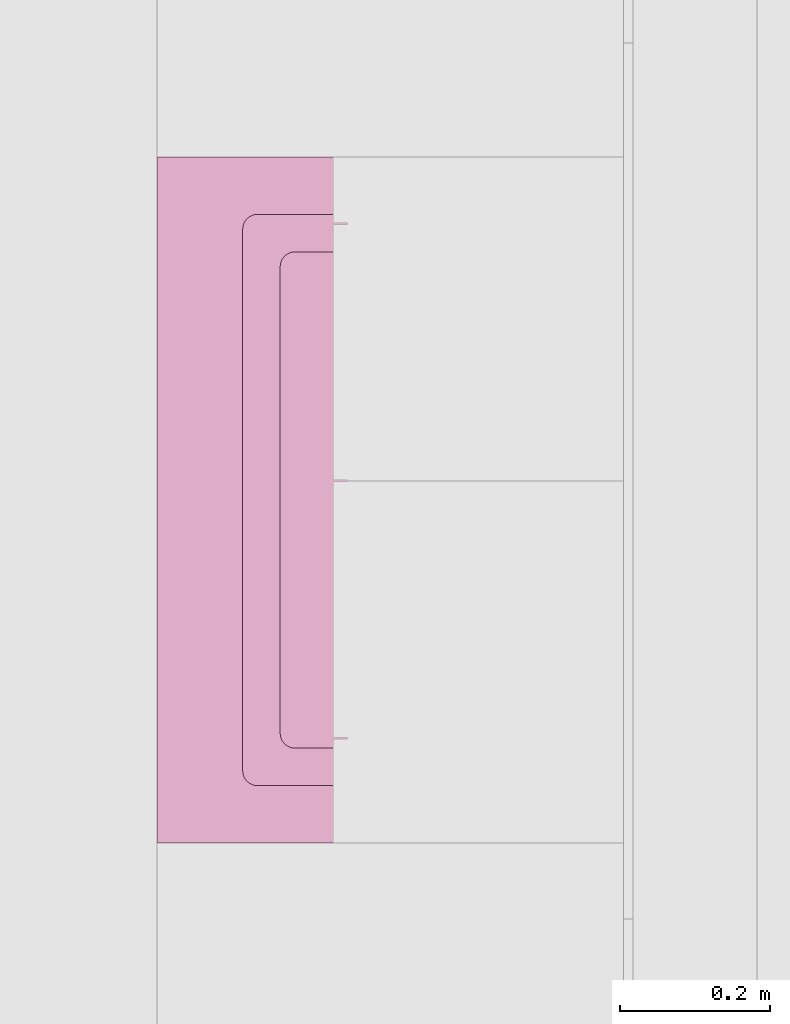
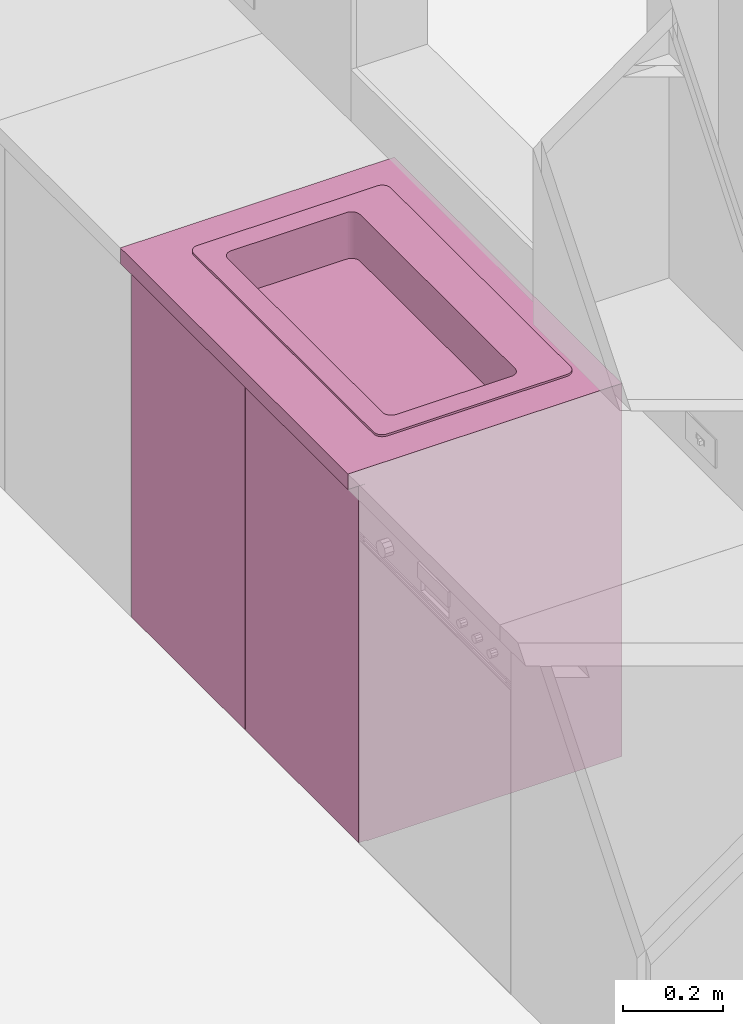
# One storey, part 47 of 103: 1 furnishing.
"""IFC2X3 building model written with IfcOpenShell, lengths in inches."""

from ifc_helpers import new_model, entity, si_unit, converted_unit, derived_unit, money_unit, direction, frame, origin_with_axes, place, context, subcontext, project, spatial, open_shell, faceted_brep, surface_model, type_object, element, save


model = new_model("IFC2X3")

# Units and contexts
model_context = context("Model", 3, precision=0.00039370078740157, world=origin_with_axes(), true_north=direction((0.0, 1.0)))
plan_context = context("Plan", 3, precision=0.00039370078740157, world=origin_with_axes(), true_north=direction((0.0, 1.0)))
body_context = subcontext(model_context, "Body", "Model", "MODEL_VIEW")
ifc_project = project(units=[converted_unit("LENGTHUNIT", "INCH", entity("IfcPositiveLengthMeasure", 0.0254), si_unit("LENGTHUNIT", "METRE"), dimensions=[1, 0, 0, 0, 0, 0, 0]), converted_unit("AREAUNIT", "SQUARE_FOOT", entity("IfcPositiveLengthMeasure", 0.09290304), si_unit("AREAUNIT", "SQUARE_METRE"), dimensions=[2, 0, 0, 0, 0, 0, 0]), si_unit("PLANEANGLEUNIT", "RADIAN"), si_unit("SOLIDANGLEUNIT", "STERADIAN"), money_unit("USD"), converted_unit("TIMEUNIT", "Year", entity("IfcTimeMeasure", 31557600.0), si_unit("TIMEUNIT", "SECOND"), dimensions=[0, 0, 1, 0, 0, 0, 0]), si_unit("MASSUNIT", "GRAM", prefix="KILO"), si_unit("THERMODYNAMICTEMPERATUREUNIT", "DEGREE_CELSIUS"), si_unit("LUMINOUSINTENSITYUNIT", "LUMEN"), si_unit("ENERGYUNIT", "JOULE", prefix="MEGA"), derived_unit("SPECIFICHEATCAPACITYUNIT", [(si_unit("ENERGYUNIT", "JOULE"), 1), (si_unit("MASSUNIT", "GRAM", prefix="KILO"), -1), (si_unit("THERMODYNAMICTEMPERATUREUNIT", "KELVIN"), -1)])], contexts=[model_context, plan_context])

# Site, building, storey
site_placement = place(None, origin_with_axes())
site = spatial("IfcSite", under=ifc_project, at=site_placement, Name="Site", CompositionType="ELEMENT")
building_placement = place(site_placement, origin_with_axes())
building = spatial("IfcBuilding", under=site, at=building_placement, Name="Building", CompositionType="ELEMENT")
storey_placement = place(building_placement, frame((0.0, 0.0, 127.9999999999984), z_axis=(0.0, 0.0, 1.0), x_axis=(1.0, 0.0, 0.0)))
storey = spatial("IfcBuildingStorey", under=building, at=storey_placement, Name="Second Floor", CompositionType="ELEMENT", Elevation=128.0)

# Furnishing
furniture_type = type_object("IfcFurnitureType", Name="Base Cabinet Block", AssemblyPlace="NOTDEFINED")
furnishing_placement = place(storey_placement, frame((154.9997122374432, 277.0007128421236, 0.0), z_axis=(0.0, 0.0, 1.0), x_axis=(2.019381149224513e-06, -0.9999999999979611, 0.0)))
element("IfcFurnishingElement", 1, at=furnishing_placement, inside=storey, type_object=furniture_type, Name="OBJ-16", context=body_context, shape_type="SurfaceModel", body=[
    faceted_brep([(0.0, 0.0, 34.49999999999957), (35.99999999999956, 0.0, 34.49999999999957), (35.99999999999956, -24.99999999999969, 34.49999999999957), (0.0, -24.99999999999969, 34.49999999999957), (32.20063602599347, -19.05602218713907, 34.49999999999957), (32.21259842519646, -18.91929133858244, 34.49999999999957), (32.21259842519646, -4.068897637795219, 34.49999999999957), (32.20063602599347, -3.932166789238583, 34.49999999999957), (32.16511229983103, -3.799590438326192, 34.49999999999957), (32.10710661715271, -3.675196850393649, 34.49999999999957), (32.0283814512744, -3.562765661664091, 34.49999999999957), (31.93132882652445, -3.46571303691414, 34.49999999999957), (31.81889763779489, -3.386987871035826, 34.49999999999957), (31.69450404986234, -3.328982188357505, 34.49999999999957), (31.56192769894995, -3.293458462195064, 34.49999999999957), (31.42519685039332, -3.281496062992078, 34.49999999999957), (4.574803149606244, -3.281496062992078, 34.49999999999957), (4.438072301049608, -3.293458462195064, 34.49999999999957), (4.305495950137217, -3.328982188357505, 34.49999999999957), (4.181102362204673, -3.386987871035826, 34.49999999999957), (4.068671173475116, -3.46571303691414, 34.49999999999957), (3.971618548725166, -3.562765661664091, 34.49999999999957), (3.892893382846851, -3.675196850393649, 34.49999999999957), (3.83488770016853, -3.799590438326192, 34.49999999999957), (3.799363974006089, -3.932166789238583, 34.49999999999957), (3.787401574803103, -4.068897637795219, 34.49999999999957), (3.787401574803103, -18.91929133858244, 34.49999999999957), (3.799363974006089, -19.05602218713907, 34.49999999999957), (3.83488770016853, -19.18859853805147, 34.49999999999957), (3.892893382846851, -19.31299212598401, 34.49999999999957), (3.971618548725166, -19.42542331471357, 34.49999999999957), (4.068671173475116, -19.52247593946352, 34.49999999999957), (4.181102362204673, -19.60120110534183, 34.49999999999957), (4.305495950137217, -19.65920678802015, 34.49999999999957), (4.438072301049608, -19.69473051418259, 34.49999999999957), (4.574803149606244, -19.70669291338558, 34.49999999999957), (31.42519685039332, -19.70669291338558, 34.49999999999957), (31.56192769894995, -19.69473051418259, 34.49999999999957), (31.69450404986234, -19.65920678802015, 34.49999999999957), (31.81889763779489, -19.60120110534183, 34.49999999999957), (31.93132882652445, -19.52247593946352, 34.49999999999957), (32.0283814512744, -19.42542331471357, 34.49999999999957), (32.10710661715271, -19.31299212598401, 34.49999999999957), (32.16511229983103, -19.18859853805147, 34.49999999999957), (0.0, 0.0, 35.99999999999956), (35.99999999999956, 0.0, 35.99999999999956), (35.99999999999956, -24.99999999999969, 35.99999999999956), (0.0, -24.99999999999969, 35.99999999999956), (32.20063602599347, -19.05602218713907, 35.99999999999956), (32.21259842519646, -18.91929133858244, 35.99999999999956), (32.21259842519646, -4.068897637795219, 35.99999999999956), (32.20063602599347, -3.932166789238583, 35.99999999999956), (32.16511229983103, -3.799590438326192, 35.99999999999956), (32.10710661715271, -3.675196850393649, 35.99999999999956), (32.0283814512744, -3.562765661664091, 35.99999999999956), (31.93132882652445, -3.46571303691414, 35.99999999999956), (31.81889763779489, -3.386987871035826, 35.99999999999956), (31.69450404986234, -3.328982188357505, 35.99999999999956), (31.56192769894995, -3.293458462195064, 35.99999999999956), (31.42519685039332, -3.281496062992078, 35.99999999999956), (4.574803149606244, -3.281496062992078, 35.99999999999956), (4.438072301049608, -3.293458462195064, 35.99999999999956), (4.305495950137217, -3.328982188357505, 35.99999999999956), (4.181102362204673, -3.386987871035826, 35.99999999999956), (4.068671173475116, -3.46571303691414, 35.99999999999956), (3.971618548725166, -3.562765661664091, 35.99999999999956), (3.892893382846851, -3.675196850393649, 35.99999999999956), (3.83488770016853, -3.799590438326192, 35.99999999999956), (3.799363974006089, -3.932166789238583, 35.99999999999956), (3.787401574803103, -4.068897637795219, 35.99999999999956), (3.787401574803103, -18.91929133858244, 35.99999999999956), (3.799363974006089, -19.05602218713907, 35.99999999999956), (3.83488770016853, -19.18859853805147, 35.99999999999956), (3.892893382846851, -19.31299212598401, 35.99999999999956), (3.971618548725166, -19.42542331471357, 35.99999999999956), (4.068671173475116, -19.52247593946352, 35.99999999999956), (4.181102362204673, -19.60120110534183, 35.99999999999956), (4.305495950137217, -19.65920678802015, 35.99999999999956), (4.438072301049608, -19.69473051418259, 35.99999999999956), (4.574803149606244, -19.70669291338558, 35.99999999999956), (31.42519685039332, -19.70669291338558, 35.99999999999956), (31.56192769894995, -19.69473051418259, 35.99999999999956), (31.69450404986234, -19.65920678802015, 35.99999999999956), (31.81889763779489, -19.60120110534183, 35.99999999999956), (31.93132882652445, -19.52247593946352, 35.99999999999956), (32.0283814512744, -19.42542331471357, 35.99999999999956), (32.10710661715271, -19.31299212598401, 35.99999999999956), (32.16511229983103, -19.18859853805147, 35.99999999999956)], [[[0, 1, 2, 3], [4, 5, 6, 7, 8, 9, 10, 11, 12, 13, 14, 15, 16, 17, 18, 19, 20, 21, 22, 23, 24, 25, 26, 27, 28, 29, 30, 31, 32, 33, 34, 35, 36, 37, 38, 39, 40, 41, 42, 43]], [[0, 44, 45, 1]], [[1, 45, 46, 2]], [[2, 46, 47, 3]], [[3, 47, 44, 0]], [[48, 49, 5, 4]], [[49, 50, 6, 5]], [[50, 51, 7, 6]], [[51, 52, 8, 7]], [[52, 53, 9, 8]], [[53, 54, 10, 9]], [[54, 55, 11, 10]], [[55, 56, 12, 11]], [[56, 57, 13, 12]], [[57, 58, 14, 13]], [[58, 59, 15, 14]], [[59, 60, 16, 15]], [[60, 61, 17, 16]], [[61, 62, 18, 17]], [[62, 63, 19, 18]], [[63, 64, 20, 19]], [[64, 65, 21, 20]], [[65, 66, 22, 21]], [[66, 67, 23, 22]], [[67, 68, 24, 23]], [[68, 69, 25, 24]], [[69, 70, 26, 25]], [[70, 71, 27, 26]], [[71, 72, 28, 27]], [[72, 73, 29, 28]], [[73, 74, 30, 29]], [[74, 75, 31, 30]], [[75, 76, 32, 31]], [[76, 77, 33, 32]], [[77, 78, 34, 33]], [[78, 79, 35, 34]], [[79, 80, 36, 35]], [[80, 81, 37, 36]], [[81, 82, 38, 37]], [[82, 83, 39, 38]], [[83, 84, 40, 39]], [[84, 85, 41, 40]], [[85, 86, 42, 41]], [[86, 87, 43, 42]], [[87, 48, 4, 43]], [[46, 45, 44, 47], [52, 51, 50, 49, 48, 87, 86, 85, 84, 83, 82, 81, 80, 79, 78, 77, 76, 75, 74, 73, 72, 71, 70, 69, 68, 67, 66, 65, 64, 63, 62, 61, 60, 59, 58, 57, 56, 55, 54, 53]]]),
    surface_model("IfcShellBasedSurfaceModel", [(5.755905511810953, -18.52559055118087, 31.6968503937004), (30.2440944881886, -18.52559055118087, 31.6968503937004), (30.2440944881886, -18.52559055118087, 35.99999999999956), (5.755905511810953, -18.52559055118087, 35.99999999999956), (5.619174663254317, -18.51362815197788, 31.6968503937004), (5.486598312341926, -18.47810442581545, 31.6968503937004), (5.362204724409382, -18.42009874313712, 31.6968503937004), (5.249773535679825, -18.34137357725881, 31.6968503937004), (5.152720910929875, -18.24432095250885, 31.6968503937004), (5.073995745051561, -18.1318897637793, 31.6968503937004), (5.015990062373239, -18.00749617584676, 31.6968503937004), (4.980466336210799, -17.87491982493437, 31.6968503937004), (4.968503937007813, -17.73818897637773, 31.6968503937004), (4.968503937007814, -7.218503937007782, 31.6968503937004), (4.980466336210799, -7.081773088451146, 31.6968503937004), (5.015990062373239, -6.949196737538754, 31.6968503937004), (5.073995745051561, -6.824803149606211, 31.6968503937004), (5.152720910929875, -6.712371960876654, 31.6968503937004), (5.249773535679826, -6.615319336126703, 31.6968503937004), (5.362204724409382, -6.536594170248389, 31.6968503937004), (5.486598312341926, -6.478588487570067, 31.6968503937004), (5.619174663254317, -6.443064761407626, 31.6968503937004), (5.755905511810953, -6.431102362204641, 31.6968503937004), (30.2440944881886, -6.431102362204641, 31.6968503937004), (30.38082533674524, -6.443064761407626, 31.6968503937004), (30.51340168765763, -6.478588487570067, 31.6968503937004), (30.63779527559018, -6.536594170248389, 31.6968503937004), (30.75022646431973, -6.615319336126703, 31.6968503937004), (30.84727908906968, -6.712371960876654, 31.6968503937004), (30.92600425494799, -6.824803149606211, 31.6968503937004), (30.98400993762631, -6.949196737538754, 31.6968503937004), (31.01953366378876, -7.081773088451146, 31.6968503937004), (31.03149606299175, -7.218503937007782, 31.6968503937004), (31.03149606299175, -17.73818897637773, 31.6968503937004), (31.01953366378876, -17.87491982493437, 31.6968503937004), (30.98400993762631, -18.00749617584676, 31.6968503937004), (30.92600425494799, -18.1318897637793, 31.6968503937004), (30.84727908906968, -18.24432095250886, 31.6968503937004), (30.75022646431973, -18.34137357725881, 31.6968503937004), (30.63779527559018, -18.42009874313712, 31.6968503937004), (30.51340168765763, -18.47810442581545, 31.6968503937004), (30.38082533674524, -18.51362815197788, 31.6968503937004), (30.38082533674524, -18.51362815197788, 35.99999999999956), (5.619174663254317, -18.51362815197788, 35.99999999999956), (5.486598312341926, -18.47810442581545, 35.99999999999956), (5.362204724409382, -18.42009874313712, 35.99999999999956), (5.249773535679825, -18.34137357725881, 35.99999999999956), (5.152720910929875, -18.24432095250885, 35.99999999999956), (5.073995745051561, -18.1318897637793, 35.99999999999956), (5.015990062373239, -18.00749617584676, 35.99999999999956), (4.980466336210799, -17.87491982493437, 35.99999999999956), (4.968503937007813, -17.73818897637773, 35.99999999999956), (4.968503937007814, -7.218503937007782, 35.99999999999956), (4.980466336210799, -7.081773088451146, 35.99999999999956), (5.015990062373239, -6.949196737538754, 35.99999999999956), (5.073995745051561, -6.824803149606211, 35.99999999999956), (5.152720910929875, -6.712371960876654, 35.99999999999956), (5.249773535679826, -6.615319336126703, 35.99999999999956), (5.362204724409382, -6.536594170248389, 35.99999999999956), (5.486598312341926, -6.478588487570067, 35.99999999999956), (5.619174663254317, -6.443064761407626, 35.99999999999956), (5.755905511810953, -6.431102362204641, 35.99999999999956), (30.2440944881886, -6.431102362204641, 35.99999999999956), (30.38082533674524, -6.443064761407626, 35.99999999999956), (30.51340168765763, -6.478588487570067, 35.99999999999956), (30.63779527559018, -6.536594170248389, 35.99999999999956), (30.75022646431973, -6.615319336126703, 35.99999999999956), (30.84727908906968, -6.712371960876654, 35.99999999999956), (30.92600425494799, -6.824803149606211, 35.99999999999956), (30.98400993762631, -6.949196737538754, 35.99999999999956), (31.01953366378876, -7.081773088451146, 35.99999999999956), (31.03149606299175, -7.218503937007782, 35.99999999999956), (31.03149606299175, -17.73818897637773, 35.99999999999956), (31.01953366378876, -17.87491982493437, 35.99999999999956), (30.98400993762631, -18.00749617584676, 35.99999999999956), (30.92600425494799, -18.1318897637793, 35.99999999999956), (30.84727908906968, -18.24432095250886, 35.99999999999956), (30.75022646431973, -18.34137357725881, 35.99999999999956), (30.63779527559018, -18.42009874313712, 35.99999999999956), (30.51340168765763, -18.47810442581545, 35.99999999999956)], [open_shell([[[0, 1, 2, 3]], [[0, 4, 5, 6, 7, 8, 9, 10, 11, 12, 13, 14, 15, 16, 17, 18, 19, 20, 21, 22, 23, 24, 25, 26, 27, 28, 29, 30, 31, 32, 33, 34, 35, 36, 37, 38, 39, 40, 41, 1]], [[1, 41, 42, 2]], [[4, 0, 3, 43]], [[5, 4, 43, 44]], [[6, 5, 44, 45]], [[7, 6, 45, 46]], [[8, 7, 46, 47]], [[9, 8, 47, 48]], [[10, 9, 48, 49]], [[11, 10, 49, 50]], [[12, 11, 50, 51]], [[13, 12, 51, 52]], [[14, 13, 52, 53]], [[15, 14, 53, 54]], [[16, 15, 54, 55]], [[17, 16, 55, 56]], [[18, 17, 56, 57]], [[19, 18, 57, 58]], [[20, 19, 58, 59]], [[21, 20, 59, 60]], [[22, 21, 60, 61]], [[23, 22, 61, 62]], [[24, 23, 62, 63]], [[25, 24, 63, 64]], [[26, 25, 64, 65]], [[27, 26, 65, 66]], [[28, 27, 66, 67]], [[29, 28, 67, 68]], [[30, 29, 68, 69]], [[31, 30, 69, 70]], [[32, 31, 70, 71]], [[33, 32, 71, 72]], [[34, 33, 72, 73]], [[35, 34, 73, 74]], [[36, 35, 74, 75]], [[37, 36, 75, 76]], [[38, 37, 76, 77]], [[39, 38, 77, 78]], [[40, 39, 78, 79]], [[41, 40, 79, 42]]])]),
    faceted_brep([(3.787401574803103, -20.49409448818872, 35.99999999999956), (32.21259842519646, -20.49409448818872, 35.99999999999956), (32.21259842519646, -20.49409448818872, 36.19685039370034), (3.787401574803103, -20.49409448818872, 36.19685039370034), (3.650670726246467, -20.48213208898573, 35.99999999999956), (3.518094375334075, -20.44660836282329, 35.99999999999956), (3.393700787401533, -20.38860268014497, 35.99999999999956), (3.281269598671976, -20.30987751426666, 35.99999999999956), (3.184216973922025, -20.21282488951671, 35.99999999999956), (3.105491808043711, -20.10039370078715, 35.99999999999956), (3.047486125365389, -19.97600011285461, 35.99999999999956), (3.011962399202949, -19.84342376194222, 35.99999999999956), (2.999999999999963, -19.70669291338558, 35.99999999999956), (2.999999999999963, -3.281496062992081, 35.99999999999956), (3.011962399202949, -3.144765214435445, 35.99999999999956), (3.047486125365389, -3.012188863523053, 35.99999999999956), (3.105491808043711, -2.88779527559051, 35.99999999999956), (3.184216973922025, -2.775364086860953, 35.99999999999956), (3.281269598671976, -2.678311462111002, 35.99999999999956), (3.393700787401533, -2.599586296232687, 35.99999999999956), (3.518094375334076, -2.541580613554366, 35.99999999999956), (3.650670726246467, -2.506056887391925, 35.99999999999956), (3.787401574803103, -2.49409448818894, 35.99999999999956), (32.21259842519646, -2.49409448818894, 35.99999999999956), (32.34932927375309, -2.506056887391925, 35.99999999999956), (32.48190562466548, -2.541580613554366, 35.99999999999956), (32.60629921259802, -2.599586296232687, 35.99999999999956), (32.71873040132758, -2.678311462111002, 35.99999999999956), (32.81578302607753, -2.775364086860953, 35.99999999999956), (32.89450819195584, -2.88779527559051, 35.99999999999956), (32.95251387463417, -3.012188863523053, 35.99999999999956), (32.98803760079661, -3.144765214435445, 35.99999999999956), (32.99999999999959, -3.281496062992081, 35.99999999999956), (32.99999999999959, -19.70669291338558, 35.99999999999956), (32.98803760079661, -19.84342376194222, 35.99999999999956), (32.95251387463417, -19.97600011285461, 35.99999999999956), (32.89450819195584, -20.10039370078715, 35.99999999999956), (32.81578302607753, -20.21282488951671, 35.99999999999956), (32.71873040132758, -20.30987751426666, 35.99999999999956), (32.60629921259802, -20.38860268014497, 35.99999999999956), (32.48190562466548, -20.44660836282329, 35.99999999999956), (32.34932927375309, -20.48213208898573, 35.99999999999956), (5.755905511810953, -18.52559055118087, 35.99999999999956), (30.2440944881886, -18.52559055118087, 35.99999999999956), (30.38082533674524, -18.51362815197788, 35.99999999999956), (30.51340168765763, -18.47810442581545, 35.99999999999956), (30.63779527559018, -18.42009874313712, 35.99999999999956), (30.75022646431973, -18.34137357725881, 35.99999999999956), (30.84727908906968, -18.24432095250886, 35.99999999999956), (30.92600425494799, -18.1318897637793, 35.99999999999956), (30.98400993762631, -18.00749617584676, 35.99999999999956), (31.01953366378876, -17.87491982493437, 35.99999999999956), (31.03149606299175, -17.73818897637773, 35.99999999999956), (31.03149606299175, -7.218503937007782, 35.99999999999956), (31.01953366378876, -7.081773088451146, 35.99999999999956), (30.98400993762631, -6.949196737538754, 35.99999999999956), (30.92600425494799, -6.824803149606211, 35.99999999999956), (30.84727908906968, -6.712371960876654, 35.99999999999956), (30.75022646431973, -6.615319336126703, 35.99999999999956), (30.63779527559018, -6.536594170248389, 35.99999999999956), (30.51340168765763, -6.478588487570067, 35.99999999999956), (30.38082533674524, -6.443064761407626, 35.99999999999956), (30.2440944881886, -6.431102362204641, 35.99999999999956), (5.755905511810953, -6.431102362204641, 35.99999999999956), (5.619174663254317, -6.443064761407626, 35.99999999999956), (5.486598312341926, -6.478588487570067, 35.99999999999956), (5.362204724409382, -6.536594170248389, 35.99999999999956), (5.249773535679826, -6.615319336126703, 35.99999999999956), (5.152720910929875, -6.712371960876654, 35.99999999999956), (5.073995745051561, -6.824803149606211, 35.99999999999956), (5.015990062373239, -6.949196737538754, 35.99999999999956), (4.980466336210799, -7.081773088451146, 35.99999999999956), (4.968503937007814, -7.218503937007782, 35.99999999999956), (4.968503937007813, -17.73818897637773, 35.99999999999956), (4.980466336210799, -17.87491982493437, 35.99999999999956), (5.015990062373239, -18.00749617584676, 35.99999999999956), (5.073995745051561, -18.1318897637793, 35.99999999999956), (5.152720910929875, -18.24432095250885, 35.99999999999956), (5.249773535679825, -18.34137357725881, 35.99999999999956), (5.362204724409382, -18.42009874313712, 35.99999999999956), (5.486598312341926, -18.47810442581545, 35.99999999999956), (5.619174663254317, -18.51362815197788, 35.99999999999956), (32.34932927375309, -20.48213208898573, 36.19685039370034), (32.48190562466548, -20.44660836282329, 36.19685039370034), (32.60629921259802, -20.38860268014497, 36.19685039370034), (32.71873040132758, -20.30987751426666, 36.19685039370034), (32.81578302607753, -20.21282488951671, 36.19685039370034), (32.89450819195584, -20.10039370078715, 36.19685039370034), (32.95251387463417, -19.97600011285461, 36.19685039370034), (32.98803760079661, -19.84342376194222, 36.19685039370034), (32.99999999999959, -19.70669291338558, 36.19685039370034), (32.99999999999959, -3.281496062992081, 36.19685039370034), (32.98803760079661, -3.144765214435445, 36.19685039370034), (32.95251387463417, -3.012188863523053, 36.19685039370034), (32.89450819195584, -2.88779527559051, 36.19685039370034), (32.81578302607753, -2.775364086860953, 36.19685039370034), (32.71873040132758, -2.678311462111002, 36.19685039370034), (32.60629921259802, -2.599586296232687, 36.19685039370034), (32.48190562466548, -2.541580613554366, 36.19685039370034), (32.34932927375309, -2.506056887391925, 36.19685039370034), (32.21259842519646, -2.49409448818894, 36.19685039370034), (3.787401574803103, -2.49409448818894, 36.19685039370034), (3.650670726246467, -2.506056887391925, 36.19685039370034), (3.518094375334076, -2.541580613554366, 36.19685039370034), (3.393700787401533, -2.599586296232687, 36.19685039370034), (3.281269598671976, -2.678311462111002, 36.19685039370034), (3.184216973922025, -2.775364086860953, 36.19685039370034), (3.105491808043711, -2.88779527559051, 36.19685039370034), (3.047486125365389, -3.012188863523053, 36.19685039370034), (3.011962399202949, -3.144765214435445, 36.19685039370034), (2.999999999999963, -3.281496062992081, 36.19685039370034), (2.999999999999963, -19.70669291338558, 36.19685039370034), (3.011962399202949, -19.84342376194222, 36.19685039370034), (3.047486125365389, -19.97600011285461, 36.19685039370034), (3.105491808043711, -20.10039370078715, 36.19685039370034), (3.184216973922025, -20.21282488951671, 36.19685039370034), (3.281269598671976, -20.30987751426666, 36.19685039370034), (3.393700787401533, -20.38860268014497, 36.19685039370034), (3.518094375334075, -20.44660836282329, 36.19685039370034), (3.650670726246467, -20.48213208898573, 36.19685039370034), (5.755905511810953, -18.52559055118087, 36.19685039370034), (5.619174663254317, -18.51362815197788, 36.19685039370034), (5.486598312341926, -18.47810442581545, 36.19685039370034), (5.362204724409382, -18.42009874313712, 36.19685039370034), (5.249773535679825, -18.34137357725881, 36.19685039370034), (5.152720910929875, -18.24432095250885, 36.19685039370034), (5.073995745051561, -18.1318897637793, 36.19685039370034), (5.015990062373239, -18.00749617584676, 36.19685039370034), (4.980466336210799, -17.87491982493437, 36.19685039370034), (4.968503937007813, -17.73818897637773, 36.19685039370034), (4.968503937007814, -7.218503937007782, 36.19685039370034), (4.980466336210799, -7.081773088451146, 36.19685039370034), (5.015990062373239, -6.949196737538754, 36.19685039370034), (5.073995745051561, -6.824803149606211, 36.19685039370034), (5.152720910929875, -6.712371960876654, 36.19685039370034), (5.249773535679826, -6.615319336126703, 36.19685039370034), (5.362204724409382, -6.536594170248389, 36.19685039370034), (5.486598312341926, -6.478588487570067, 36.19685039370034), (5.619174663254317, -6.443064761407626, 36.19685039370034), (5.755905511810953, -6.431102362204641, 36.19685039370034), (30.2440944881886, -6.431102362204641, 36.19685039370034), (30.38082533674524, -6.443064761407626, 36.19685039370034), (30.51340168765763, -6.478588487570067, 36.19685039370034), (30.63779527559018, -6.536594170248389, 36.19685039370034), (30.75022646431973, -6.615319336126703, 36.19685039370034), (30.84727908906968, -6.712371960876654, 36.19685039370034), (30.92600425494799, -6.824803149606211, 36.19685039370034), (30.98400993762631, -6.949196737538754, 36.19685039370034), (31.01953366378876, -7.081773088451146, 36.19685039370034), (31.03149606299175, -7.218503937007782, 36.19685039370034), (31.03149606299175, -17.73818897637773, 36.19685039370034), (31.01953366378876, -17.87491982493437, 36.19685039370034), (30.98400993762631, -18.00749617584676, 36.19685039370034), (30.92600425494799, -18.1318897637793, 36.19685039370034), (30.84727908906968, -18.24432095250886, 36.19685039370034), (30.75022646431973, -18.34137357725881, 36.19685039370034), (30.63779527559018, -18.42009874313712, 36.19685039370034), (30.51340168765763, -18.47810442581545, 36.19685039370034), (30.38082533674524, -18.51362815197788, 36.19685039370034), (30.2440944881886, -18.52559055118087, 36.19685039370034)], [[[0, 1, 2, 3]], [[0, 4, 5, 6, 7, 8, 9, 10, 11, 12, 13, 14, 15, 16, 17, 18, 19, 20, 21, 22, 23, 24, 25, 26, 27, 28, 29, 30, 31, 32, 33, 34, 35, 36, 37, 38, 39, 40, 41, 1], [42, 43, 44, 45, 46, 47, 48, 49, 50, 51, 52, 53, 54, 55, 56, 57, 58, 59, 60, 61, 62, 63, 64, 65, 66, 67, 68, 69, 70, 71, 72, 73, 74, 75, 76, 77, 78, 79, 80, 81]], [[1, 41, 82, 2]], [[3, 2, 82, 83, 84, 85, 86, 87, 88, 89, 90, 91, 92, 93, 94, 95, 96, 97, 98, 99, 100, 101, 102, 103, 104, 105, 106, 107, 108, 109, 110, 111, 112, 113, 114, 115, 116, 117, 118, 119], [120, 121, 122, 123, 124, 125, 126, 127, 128, 129, 130, 131, 132, 133, 134, 135, 136, 137, 138, 139, 140, 141, 142, 143, 144, 145, 146, 147, 148, 149, 150, 151, 152, 153, 154, 155, 156, 157, 158, 159]], [[4, 0, 3, 119]], [[5, 4, 119, 118]], [[6, 5, 118, 117]], [[7, 6, 117, 116]], [[8, 7, 116, 115]], [[9, 8, 115, 114]], [[10, 9, 114, 113]], [[11, 10, 113, 112]], [[12, 11, 112, 111]], [[13, 12, 111, 110]], [[14, 13, 110, 109]], [[15, 14, 109, 108]], [[16, 15, 108, 107]], [[17, 16, 107, 106]], [[18, 17, 106, 105]], [[19, 18, 105, 104]], [[20, 19, 104, 103]], [[21, 20, 103, 102]], [[22, 21, 102, 101]], [[23, 22, 101, 100]], [[24, 23, 100, 99]], [[25, 24, 99, 98]], [[26, 25, 98, 97]], [[27, 26, 97, 96]], [[28, 27, 96, 95]], [[29, 28, 95, 94]], [[30, 29, 94, 93]], [[31, 30, 93, 92]], [[32, 31, 92, 91]], [[33, 32, 91, 90]], [[34, 33, 90, 89]], [[35, 34, 89, 88]], [[36, 35, 88, 87]], [[37, 36, 87, 86]], [[38, 37, 86, 85]], [[39, 38, 85, 84]], [[40, 39, 84, 83]], [[41, 40, 83, 82]], [[43, 42, 120, 159]], [[44, 43, 159, 158]], [[45, 44, 158, 157]], [[46, 45, 157, 156]], [[47, 46, 156, 155]], [[48, 47, 155, 154]], [[49, 48, 154, 153]], [[50, 49, 153, 152]], [[51, 50, 152, 151]], [[52, 51, 151, 150]], [[53, 52, 150, 149]], [[54, 53, 149, 148]], [[55, 54, 148, 147]], [[56, 55, 147, 146]], [[57, 56, 146, 145]], [[58, 57, 145, 144]], [[59, 58, 144, 143]], [[60, 59, 143, 142]], [[61, 60, 142, 141]], [[62, 61, 141, 140]], [[63, 62, 140, 139]], [[64, 63, 139, 138]], [[65, 64, 138, 137]], [[66, 65, 137, 136]], [[67, 66, 136, 135]], [[68, 67, 135, 134]], [[69, 68, 134, 133]], [[70, 69, 133, 132]], [[71, 70, 132, 131]], [[72, 71, 131, 130]], [[73, 72, 130, 129]], [[74, 73, 129, 128]], [[75, 74, 128, 127]], [[76, 75, 127, 126]], [[77, 76, 126, 125]], [[78, 77, 125, 124]], [[79, 78, 124, 123]], [[80, 79, 123, 122]], [[81, 80, 122, 121]], [[42, 81, 121, 120]]]),
    faceted_brep([(0.039370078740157, -23.24999999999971, 0.039370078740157), (17.96062992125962, -23.24999999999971, 0.039370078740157), (17.96062992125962, -23.9999999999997, 0.03937007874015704), (0.039370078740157, -23.9999999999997, 0.03937007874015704), (0.039370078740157, -23.24999999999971, 34.46062992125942), (17.96062992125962, -23.24999999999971, 34.46062992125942), (17.96062992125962, -23.9999999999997, 34.46062992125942), (0.039370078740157, -23.9999999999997, 34.46062992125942)], [[[0, 1, 2, 3]], [[0, 4, 5, 1]], [[1, 5, 6, 2]], [[3, 2, 6, 7]], [[4, 0, 3, 7]], [[5, 4, 7, 6]]]),
    faceted_brep([(35.9606299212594, -23.24999999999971, 0.03937007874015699), (35.9606299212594, -23.9999999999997, 0.03937007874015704), (18.03937007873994, -23.9999999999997, 0.03937007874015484), (18.03937007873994, -23.24999999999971, 0.03937007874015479), (35.9606299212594, -23.24999999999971, 34.46062992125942), (35.9606299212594, -23.9999999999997, 34.46062992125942), (18.03937007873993, -23.9999999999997, 34.46062992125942), (18.03937007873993, -23.24999999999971, 34.46062992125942)], [[[0, 1, 2, 3]], [[4, 5, 1, 0]], [[1, 5, 6, 2]], [[3, 2, 6, 7]], [[0, 3, 7, 4]], [[7, 6, 5, 4]]]),
    faceted_brep([(0.7499999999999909, -23.24999999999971, 0.0), (35.24999999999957, -23.24999999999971, 0.0), (35.24999999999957, -23.24999999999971, 0.7499999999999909), (0.7499999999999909, -23.24999999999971, 0.7499999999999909), (0.7499999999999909, 0.0, 0.0), (35.24999999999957, 0.0, 0.0), (35.24999999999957, 0.0, 0.7499999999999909), (0.7499999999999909, 0.0, 0.7499999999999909)], [[[0, 1, 2, 3]], [[0, 4, 5, 1]], [[1, 5, 6, 2]], [[3, 2, 6, 7]], [[4, 0, 3, 7]], [[5, 4, 7, 6]]]),
    faceted_brep([(0.7499999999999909, -23.24999999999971, 33.74999999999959), (0.7499999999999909, -20.88779527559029, 33.74999999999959), (35.24999999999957, -20.88779527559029, 33.74999999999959), (35.24999999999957, -23.24999999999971, 33.74999999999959), (0.7499999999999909, -23.24999999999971, 34.49999999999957), (0.7499999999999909, -20.88779527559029, 34.49999999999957), (35.24999999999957, -20.88779527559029, 34.49999999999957), (35.24999999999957, -23.24999999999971, 34.49999999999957)], [[[0, 1, 2, 3]], [[0, 4, 5, 1]], [[1, 5, 6, 2]], [[3, 2, 6, 7]], [[4, 0, 3, 7]], [[5, 4, 7, 6]]]),
    faceted_brep([(35.24999999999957, 0.0, 33.74999999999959), (35.24999999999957, -2.36220472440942, 33.74999999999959), (0.7499999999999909, -2.36220472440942, 33.74999999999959), (0.7499999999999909, 0.0, 33.74999999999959), (35.24999999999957, 0.0, 34.49999999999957), (35.24999999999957, -2.36220472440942, 34.49999999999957), (0.7499999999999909, -2.36220472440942, 34.49999999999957), (0.7499999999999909, 0.0, 34.49999999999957)], [[[0, 1, 2, 3]], [[0, 4, 5, 1]], [[1, 5, 6, 2]], [[3, 2, 6, 7]], [[4, 0, 3, 7]], [[5, 4, 7, 6]]]),
    faceted_brep([(0.0, 0.0, 0.0), (0.0, -23.24999999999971, 0.0), (0.0, -23.24999999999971, 34.49999999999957), (0.0, 0.0, 34.49999999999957), (0.7499999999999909, 0.0, 0.0), (0.7499999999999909, -23.24999999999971, 0.0), (0.7499999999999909, -23.24999999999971, 34.49999999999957), (0.7499999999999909, 0.0, 34.49999999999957)], [[[0, 1, 2, 3]], [[0, 4, 5, 1]], [[1, 5, 6, 2]], [[3, 2, 6, 7]], [[4, 0, 3, 7]], [[5, 4, 7, 6]]]),
    faceted_brep([(35.99999999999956, -23.24999999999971, 0.0), (35.99999999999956, 0.0, 0.0), (35.99999999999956, 0.0, 34.49999999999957), (35.99999999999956, -23.24999999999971, 34.49999999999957), (35.24999999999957, -23.24999999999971, 0.0), (35.24999999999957, 0.0, 0.0), (35.24999999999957, 0.0, 34.49999999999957), (35.24999999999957, -23.24999999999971, 34.49999999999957)], [[[0, 1, 2, 3]], [[0, 4, 5, 1]], [[1, 5, 6, 2]], [[3, 2, 6, 7]], [[4, 0, 3, 7]], [[5, 4, 7, 6]]]),
    faceted_brep([(35.24999999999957, -0.3749999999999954, 0.7499999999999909), (0.7499999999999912, -0.3749999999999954, 0.7499999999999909), (0.7499999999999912, -0.3749999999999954, 33.74999999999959), (35.24999999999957, -0.3749999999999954, 33.74999999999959), (35.24999999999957, -0.7499999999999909, 0.7499999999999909), (0.7499999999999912, -0.7499999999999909, 0.7499999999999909), (0.7499999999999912, -0.7499999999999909, 33.74999999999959), (35.24999999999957, -0.7499999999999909, 33.74999999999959)], [[[0, 1, 2, 3]], [[0, 4, 5, 1]], [[1, 5, 6, 2]], [[3, 2, 6, 7]], [[4, 0, 3, 7]], [[5, 4, 7, 6]]]),
])

save(model, "model.ifc")
